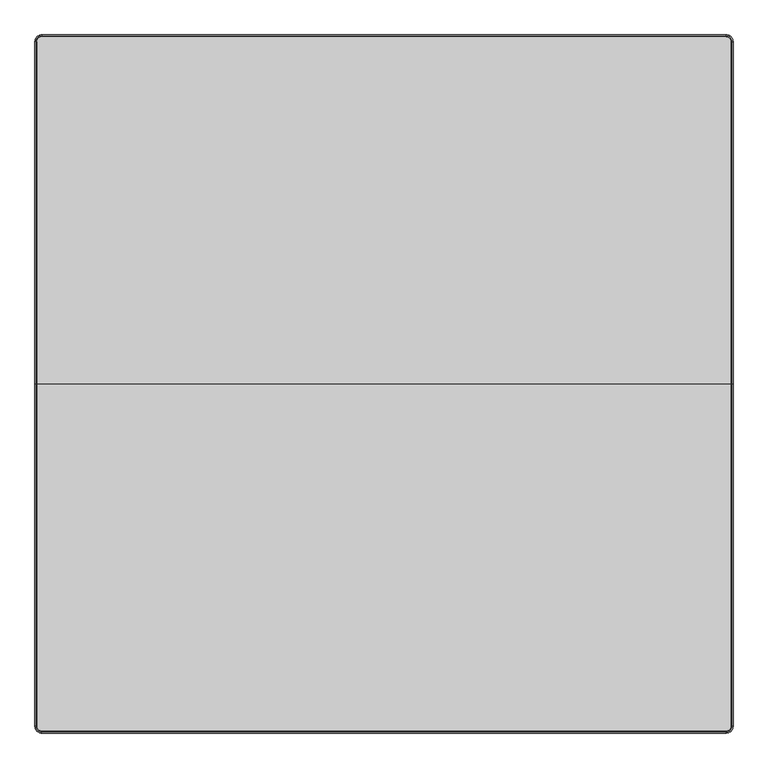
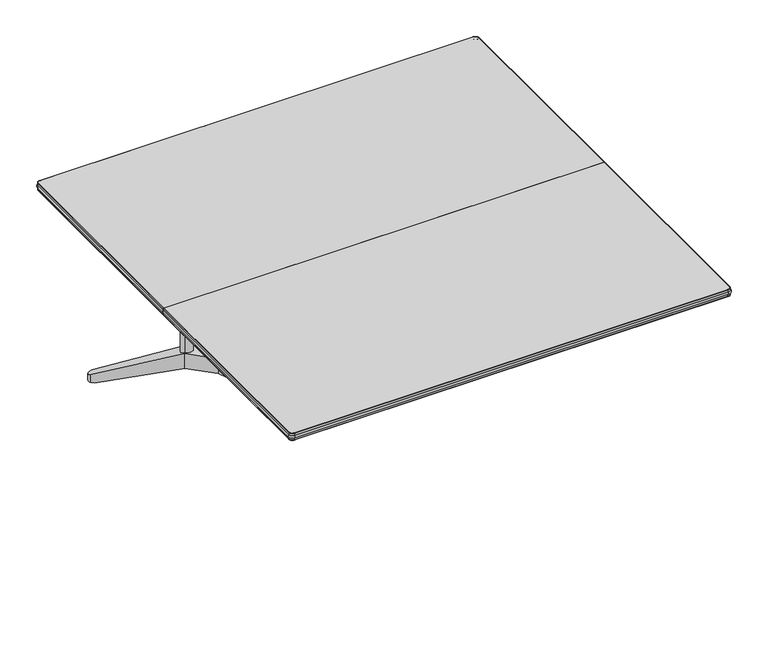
"""IFC4 building model written with IfcOpenShell, lengths in millimetres: furniture geometry, Furniture_Wilkhahn_620-24_Logon Table-Rectangle : Logon 620/23_1550L x 1550W x 730H."""

from ifc_helpers import new_model, si_unit, point, frame, frame_2d, origin, place, context, project, spatial, circle_curve, ellipse_curve, trimmed, segment, composite_curve, outline, extrude, source, transform, mapped, element, save
from ifc_brep_helpers import plane_surface, cylinder_surface, revolved_surface, advanced_brep


def furniture_4840db4a(model_context):
    return source(origin(), model_context, "Body", "SolidModel", [
        advanced_brep(
        [(-455.3877349, 445.9835503, 140.0), (-380.4344161, 371.0302315, 140.0), (-380.4344161, 371.0302315, 195.0), (-455.3877349, 445.9835503, 195.0), (-420.0323958, 481.3388893, 195.0), (-345.079077, 406.3855705, 195.0), (-345.079077, 406.3855705, 140.0), (-420.0323958, 481.3388893, 140.0), (-629.7289296, 674.7621269, 27.0), (-648.8109725, 655.6800841, 27.0), (-657.2764666, 664.8578064, 27.0), (-656.9131675, 682.864322, 27.0), (-638.906652, 683.227621, 27.0), (-638.906652, 683.227621, 56.4159205), (-656.9131675, 682.864322, 50.6048844), (-657.2764666, 664.8578064, 56.4159205), (-143.1903453, 187.5113144, 56.4159205), (-143.1903453, 187.5113144, 27.0), (-151.6558394, 196.6890367, 27.0), (-161.5601599, 169.1414998, 27.0), (-161.5601599, 169.1414998, 56.4159205), (-170.7378823, 177.6069939, 27.0), (-143.5536444, 169.5047988, 27.0), (-143.5536444, 169.5047988, 50.6048844)],
        [
            (0, 1),
            (1, 2),
            (2, 3),
            (3, 0),
            (4, 5),
            (5, 6),
            (6, 7),
            (7, 4),
            (8, 9),
            (9, 10),
            (10, 11, circle_curve(frame((-647.7207794, 673.6719338, 27.0), z_axis=(0.0, 0.0, -1.0), x_axis=(0.70710678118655, 0.7071067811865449, 0.0)), 13.0)),
            (11, 12, circle_curve(frame((-647.7207794, 673.6719338, 27.0), z_axis=(0.0, 0.0, -1.0), x_axis=(0.70710678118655, 0.7071067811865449, 0.0)), 13.0)),
            (12, 8),
            (3, 4),
            (4, 13),
            (13, 14, ellipse_curve(frame((-647.7207794, 673.6719338, 56.6601634), z_axis=(-0.2985640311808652, 0.29856403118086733, 0.9064871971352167), x_axis=(-0.6409832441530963, 0.6409832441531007, -0.42223330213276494)), 14.341074, 13.0)),
            (14, 15, ellipse_curve(frame((-647.7207794, 673.6719338, 56.6601634), z_axis=(-0.2985640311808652, 0.29856403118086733, 0.9064871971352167), x_axis=(-0.6409832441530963, 0.6409832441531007, -0.42223330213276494)), 14.341074, 13.0)),
            (15, 3),
            (7, 0),
            (0, 9),
            (8, 7),
            (16, 17),
            (17, 18),
            (18, 6),
            (5, 16),
            (19, 20),
            (20, 2),
            (1, 21),
            (21, 19),
            (2, 5),
            (6, 1),
            (19, 22, circle_curve(frame((-152.7460326, 178.697187, 27.0), z_axis=(0.0, 0.0, 1.0), x_axis=(0.70710678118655, 0.7071067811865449, 0.0)), 13.0)),
            (22, 17, circle_curve(frame((-152.7460326, 178.697187, 27.0), z_axis=(0.0, 0.0, 1.0), x_axis=(0.70710678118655, 0.7071067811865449, 0.0)), 13.0)),
            (16, 23, ellipse_curve(frame((-152.7460326, 178.697187, 56.6601634), z_axis=(-0.2985640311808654, 0.29856403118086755, -0.9064871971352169), x_axis=(0.6409832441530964, -0.6409832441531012, -0.4222333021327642)), 14.341074, 13.0)),
            (23, 20, ellipse_curve(frame((-152.7460326, 178.697187, 56.6601634), z_axis=(-0.2985640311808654, 0.29856403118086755, -0.9064871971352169), x_axis=(0.6409832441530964, -0.6409832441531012, -0.4222333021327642)), 14.341074, 13.0)),
            (15, 10),
            (13, 12),
            (21, 18),
        ],
        [
            plane_surface(frame((-662.7492452, 653.3450606, 27.0), z_axis=(-0.7071067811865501, -0.707106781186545, 0.0), x_axis=(0.707106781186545, -0.7071067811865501, 0.0))),
            plane_surface(frame((-627.3939061, 688.7003996, 27.0), z_axis=(0.7071067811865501, 0.707106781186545, 0.0), x_axis=(-0.707106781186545, 0.7071067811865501, 0.0))),
            plane_surface(frame((-621.5922815, 682.898775, 27.0), z_axis=(0.0, 0.0, -1.0), x_axis=(-0.7071067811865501, -0.707106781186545, 0.0))),
            plane_surface(frame((-639.235498, 700.5419915, 50.6048844), z_axis=(-0.2985640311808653, 0.2985640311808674, 0.906487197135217), x_axis=(-0.7071067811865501, -0.707106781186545, 0.0))),
            plane_surface(frame((-420.0323958, 481.3388893, 140.0), z_axis=(0.2605848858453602, -0.2605848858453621, -0.9296187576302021), x_axis=(-0.7071067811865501, -0.707106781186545, 0.0))),
            plane_surface(frame((-345.079077, 406.3855705, 195.0), z_axis=(0.7350528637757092, 0.6780097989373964, 0.0), x_axis=(0.0, 0.0, -1.0))),
            plane_surface(frame((-161.5601599, 169.1414998, 195.0), z_axis=(-0.6780097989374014, -0.7350528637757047, 0.0), x_axis=(0.0, 0.0, -1.0))),
            plane_surface(frame((-420.0323958, 481.3388893, 195.0), z_axis=(0.0, 0.0, 1.0), x_axis=(-0.7071067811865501, -0.707106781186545, 0.0))),
            plane_surface(frame((-345.079077, 406.3855705, 140.0), z_axis=(0.0, 0.0, -1.0), x_axis=(-0.7071067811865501, -0.707106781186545, 0.0))),
            cylinder_surface(frame((-152.7460326, 178.697187, 0.0), z_axis=(0.0, 0.0, -1.0), x_axis=(0.70710678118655, 0.7071067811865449, 0.0)), 13.0),
            plane_surface(frame((-455.3877349, 445.9835503, 195.0), z_axis=(-0.7350528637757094, -0.6780097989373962, 0.0), x_axis=(0.0, 0.0, -1.0))),
            cylinder_surface(frame((-647.7207794, 673.6719338, -14.190167), z_axis=(0.0, 0.0, -1.0), x_axis=(0.70710678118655, 0.7071067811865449, 0.0)), 13.0),
            plane_surface(frame((-638.906652, 683.227621, 195.0), z_axis=(0.6780097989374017, 0.7350528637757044, 0.0), x_axis=(0.0, 0.0, -1.0))),
            plane_surface(frame((-345.079077, 406.3855705, 195.0), z_axis=(0.29856403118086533, -0.2985640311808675, 0.9064871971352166), x_axis=(-0.7071067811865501, -0.707106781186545, 0.0))),
            plane_surface(frame((-125.8759749, 187.1824684, 27.0), z_axis=(0.0, 0.0, -1.0), x_axis=(-0.7071067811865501, -0.707106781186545, 0.0))),
            plane_surface(frame((-143.5191913, 204.8256848, 27.0), z_axis=(-0.26058488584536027, 0.26058488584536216, -0.9296187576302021), x_axis=(-0.7071067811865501, -0.707106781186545, 0.0))),
        ],
        [
            (0, [[1, 2, 3, 4]]),
            (1, [[5, 6, 7, 8]]),
            (2, [[9, 10, 11, 12, 13]]),
            (3, [[14, 15, 16, 17, 18]]),
            (4, [[19, 20, -9, 21]]),
            (5, [[22, 23, 24, -6, 25]]),
            (6, [[26, 27, -2, 28, 29]]),
            (7, [[-3, 30, -5, -14]]),
            (8, [[-1, -19, -7, 31]]),
            (9, [[-26, 32, 33, -22, 34, 35]]),
            (10, [[36, -10, -20, -4, -18]]),
            (11, [[-36, -17, -16, 37, -12, -11]]),
            (12, [[-37, -15, -8, -21, -13]]),
            (13, [[-30, -27, -35, -34, -25]]),
            (14, [[38, -23, -33, -32, -29]]),
            (15, [[-31, -24, -38, -28]]),
        ],
    ),
        extrude(outline(composite_curve([segment(trimmed(circle_curve(frame_2d((-362.7567466, 388.707901)), 20.0), [point((-376.8988822, 374.5657654))], [point((-348.6146109, 402.8500366))], False, "CARTESIAN"), True, "CONTINUOUS"), segment(trimmed(circle_curve(frame_2d((-362.7567466, 388.707901)), 20.0), [point((-348.6146109, 402.8500366))], [point((-376.8988822, 374.5657654))], False, "CARTESIAN"), True, "CONTINUOUS")], self_intersect=False)), frame((0.0, 0.0, 140.0), z_axis=(0.0, 0.0, 1.0), x_axis=(1.0, 0.0, 0.0)), (0.0, 0.0, 1.0), 535.0),
        extrude(outline(composite_curve([segment(trimmed(circle_curve(frame_2d((-437.7100654, 463.6612198)), 20.0), [point((-451.852201, 449.5190842))], [point((-423.5679298, 477.8033554))], False, "CARTESIAN"), True, "CONTINUOUS"), segment(trimmed(circle_curve(frame_2d((-437.7100654, 463.6612198)), 20.0), [point((-423.5679298, 477.8033554))], [point((-451.852201, 449.5190842))], False, "CARTESIAN"), True, "CONTINUOUS")], self_intersect=False)), frame((0.0, 0.0, 140.0), z_axis=(0.0, 0.0, 1.0), x_axis=(1.0, 0.0, 0.0)), (0.0, 0.0, 1.0), 535.0),
        advanced_brep(
        [(-771.0, 25.9511544, 730.0), (-772.5, 25.9511544, 728.5), (-772.5, 25.9511544, 721.3301166), (-772.5, 25.9511544, 712.6698626), (-772.5, 25.9511544, 705.4999792), (-771.0, 25.9511544, 703.9999792), (771.0, 25.9511544, 703.9999792), (772.5, 25.9511544, 705.4999792), (772.5, 25.9511544, 712.6698626), (772.5, 25.9511544, 721.3301166), (772.5, 25.9511544, 728.5), (771.0, 25.9511544, 730.0), (771.0, 785.9511544, 703.9999792), (760.0, 796.9511544, 703.9999792), (760.0, 798.4511544, 705.4999792), (772.5, 785.9511544, 705.4999792), (760.0, 798.4511544, 712.6698626), (772.5, 785.9511544, 712.6698626), (760.0, 798.4511544, 721.3301166), (772.5, 785.9511544, 721.3301166), (760.0, 798.4511544, 728.5), (772.5, 785.9511544, 728.5), (760.0, 796.9511544, 730.0), (771.0, 785.9511544, 730.0), (-771.0, 785.9511544, 703.9999792), (-760.0, 796.9511544, 703.9999792), (-772.5, 785.9511544, 705.4999792), (-772.5, 785.9511544, 712.6698626), (-772.5, 785.9511544, 721.3301166), (-772.5, 785.9511544, 728.5), (-771.0, 785.9511544, 730.0), (-760.0, 796.9511544, 730.0), (-760.0, 798.4511544, 705.4999792), (-760.0, 798.4511544, 712.6698626), (-760.0, 798.4511544, 721.3301166), (-760.0, 798.4511544, 728.5)],
        [
            (0, 1, circle_curve(frame((-771.0, 25.9511544, 728.5), z_axis=(0.0, -1.0, 0.0), x_axis=(-1.0000000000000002, 0.0, 0.0)), 1.5)),
            (1, 2),
            (2, 3, circle_curve(frame((-770.0, 25.9511544, 716.9999896), z_axis=(0.0, -1.0, 0.0), x_axis=(-1.0000000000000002, 0.0, 0.0)), 5.0)),
            (3, 4),
            (4, 5, circle_curve(frame((-771.0, 25.9511544, 705.4999792), z_axis=(0.0, -1.0, 0.0), x_axis=(-1.0000000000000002, 0.0, 0.0)), 1.5)),
            (5, 6),
            (6, 7, circle_curve(frame((771.0, 25.9511544, 705.4999792), z_axis=(0.0, -1.0, 0.0), x_axis=(1.0000000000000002, 0.0, 0.0)), 1.5)),
            (7, 8),
            (8, 9, circle_curve(frame((770.0, 25.9511544, 716.9999896), z_axis=(0.0, -1.0, 0.0), x_axis=(1.0000000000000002, 0.0, 0.0)), 5.0)),
            (9, 10),
            (10, 11, circle_curve(frame((771.0, 25.9511544, 728.5), z_axis=(0.0, -1.0, 0.0), x_axis=(1.0000000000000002, 0.0, 0.0)), 1.5)),
            (11, 0),
            (12, 13, circle_curve(frame((760.0, 785.9511544, 703.9999792), z_axis=(0.0, 0.0, 1.0), x_axis=(0.0, 1.0000000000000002, 0.0)), 11.0)),
            (13, 14, circle_curve(frame((760.0, 796.9511544, 705.4999792), z_axis=(1.0000000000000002, 0.0, 0.0), x_axis=(0.0, 1.0000000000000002, 0.0)), 1.5)),
            (14, 15, circle_curve(frame((760.0, 785.9511544, 705.4999792), z_axis=(0.0, 0.0, -1.0), x_axis=(0.0, 1.0000000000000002, 0.0)), 12.5)),
            (15, 12, circle_curve(frame((771.0, 785.9511544, 705.4999792), z_axis=(0.0, 1.0000000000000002, 0.0), x_axis=(1.0000000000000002, 0.0, 0.0)), 1.5)),
            (14, 16),
            (16, 17, circle_curve(frame((760.0, 785.9511544, 712.6698626), z_axis=(0.0, 0.0, -1.0), x_axis=(0.0, 1.0000000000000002, 0.0)), 12.5)),
            (17, 15),
            (16, 18, circle_curve(frame((760.0, 795.9511544, 716.9999896), z_axis=(1.0000000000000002, 0.0, 0.0), x_axis=(0.0, 1.0000000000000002, 0.0)), 5.0)),
            (18, 19, circle_curve(frame((760.0, 785.9511544, 721.3301166), z_axis=(0.0, 0.0, -1.0), x_axis=(0.0, 1.0000000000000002, 0.0)), 12.5)),
            (19, 17, circle_curve(frame((770.0, 785.9511544, 716.9999896), z_axis=(0.0, 1.0000000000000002, 0.0), x_axis=(1.0000000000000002, 0.0, 0.0)), 5.0)),
            (18, 20),
            (20, 21, circle_curve(frame((760.0, 785.9511544, 728.5), z_axis=(0.0, 0.0, -1.0), x_axis=(0.0, 1.0000000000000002, 0.0)), 12.5)),
            (21, 19),
            (20, 22, circle_curve(frame((760.0, 796.9511544, 728.5), z_axis=(1.0000000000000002, 0.0, 0.0), x_axis=(0.0, 1.0000000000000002, 0.0)), 1.5)),
            (22, 23, circle_curve(frame((760.0, 785.9511544, 730.0), z_axis=(0.0, 0.0, -1.0), x_axis=(0.0, 1.0000000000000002, 0.0)), 11.0)),
            (23, 21, circle_curve(frame((771.0, 785.9511544, 728.5), z_axis=(0.0, 1.0000000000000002, 0.0), x_axis=(1.0000000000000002, 0.0, 0.0)), 1.5)),
            (6, 12),
            (15, 7),
            (17, 8),
            (19, 9),
            (21, 10),
            (23, 11),
            (5, 24),
            (24, 25, circle_curve(frame((-760.0, 785.9511544, 703.9999792), z_axis=(0.0, 0.0, -1.0), x_axis=(-1.0000000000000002, 0.0, 0.0)), 11.0)),
            (25, 13),
            (4, 26),
            (26, 24, circle_curve(frame((-771.0, 785.9511544, 705.4999792), z_axis=(0.0, -1.0, 0.0), x_axis=(-1.0000000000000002, 0.0, 0.0)), 1.5)),
            (3, 27),
            (27, 26),
            (2, 28),
            (28, 27, circle_curve(frame((-770.0, 785.9511544, 716.9999896), z_axis=(0.0, -1.0, 0.0), x_axis=(-1.0000000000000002, 0.0, 0.0)), 5.0)),
            (1, 29),
            (29, 28),
            (0, 30),
            (30, 29, circle_curve(frame((-771.0, 785.9511544, 728.5), z_axis=(0.0, -1.0, 0.0), x_axis=(-1.0000000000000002, 0.0, 0.0)), 1.5)),
            (22, 31),
            (31, 30, circle_curve(frame((-760.0, 785.9511544, 730.0), z_axis=(0.0, 0.0, 1.0), x_axis=(-1.0000000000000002, 0.0, 0.0)), 11.0)),
            (26, 32, circle_curve(frame((-760.0, 785.9511544, 705.4999792), z_axis=(0.0, 0.0, -1.0), x_axis=(-1.0000000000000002, 0.0, 0.0)), 12.5)),
            (32, 25, circle_curve(frame((-760.0, 796.9511544, 705.4999792), z_axis=(-1.0000000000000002, 0.0, 0.0), x_axis=(0.0, 1.0000000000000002, 0.0)), 1.5)),
            (27, 33, circle_curve(frame((-760.0, 785.9511544, 712.6698626), z_axis=(0.0, 0.0, -1.0), x_axis=(-1.0000000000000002, 0.0, 0.0)), 12.5)),
            (33, 32),
            (28, 34, circle_curve(frame((-760.0, 785.9511544, 721.3301166), z_axis=(0.0, 0.0, -1.0), x_axis=(-1.0000000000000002, 0.0, 0.0)), 12.5)),
            (34, 33, circle_curve(frame((-760.0, 795.9511544, 716.9999896), z_axis=(-1.0000000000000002, 0.0, 0.0), x_axis=(0.0, 1.0000000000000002, 0.0)), 5.0)),
            (29, 35, circle_curve(frame((-760.0, 785.9511544, 728.5), z_axis=(0.0, 0.0, -1.0), x_axis=(-1.0000000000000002, 0.0, 0.0)), 12.5)),
            (35, 34),
            (31, 35, circle_curve(frame((-760.0, 796.9511544, 728.5), z_axis=(-1.0000000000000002, 0.0, 0.0), x_axis=(0.0, 1.0000000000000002, 0.0)), 1.5)),
            (32, 14),
            (33, 16),
            (34, 18),
            (35, 20),
        ],
        [
            plane_surface(frame((-775.0, 25.9511544, 730.0), z_axis=(0.0, -1.0, 0.0), x_axis=(0.0, 0.0, 1.0))),
            revolved_surface(trimmed(ellipse_curve(frame((760.0, 796.9511544, 705.4999792), z_axis=(-1.0000000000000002, 0.0, 0.0), x_axis=(0.0, 1.0000000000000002, 0.0)), 1.5, 1.5), [point((760.0, 798.4511544, 705.4999792))], [point((760.0, 796.9511544, 703.9999792))], True, "CARTESIAN"), (760.0, 785.9511544, 730.0), (0.0, 0.0, -1.0)),
            cylinder_surface(frame((760.0, 785.9511544, 730.0), z_axis=(0.0, 0.0, -1.0), x_axis=(0.0, 1.0000000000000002, 0.0)), 12.5),
            revolved_surface(trimmed(ellipse_curve(frame((760.0, 795.9511544, 716.9999896), z_axis=(-1.0000000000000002, 0.0, 0.0), x_axis=(0.0, 1.0000000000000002, 0.0)), 5.0, 5.0), [point((760.0, 798.4511544, 721.3301166))], [point((760.0, 798.4511544, 712.6698626))], True, "CARTESIAN"), (760.0, 785.9511544, 730.0), (0.0, 0.0, -1.0)),
            revolved_surface(trimmed(ellipse_curve(frame((760.0, 796.9511544, 728.5), z_axis=(-1.0000000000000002, 0.0, 0.0), x_axis=(0.0, 1.0000000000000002, 0.0)), 1.5, 1.5), [point((760.0, 796.9511544, 730.0))], [point((760.0, 798.4511544, 728.5))], True, "CARTESIAN"), (760.0, 785.9511544, 730.0), (0.0, 0.0, -1.0)),
            cylinder_surface(frame((771.0, 785.9511544, 705.4999792), z_axis=(0.0, 1.0000000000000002, 0.0), x_axis=(1.0000000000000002, 0.0, 0.0)), 1.5),
            plane_surface(frame((772.5, 785.9511544, 712.6698626), z_axis=(1.0, 0.0, 0.0), x_axis=(0.0, -1.0, 0.0))),
            cylinder_surface(frame((770.0, 785.9511544, 716.9999896), z_axis=(0.0, 1.0000000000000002, 0.0), x_axis=(1.0000000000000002, 0.0, 0.0)), 5.0),
            plane_surface(frame((772.5, 785.9511544, 728.5), z_axis=(1.0, 0.0, 0.0), x_axis=(0.0, -1.0, 0.0))),
            cylinder_surface(frame((771.0, 785.9511544, 728.5), z_axis=(0.0, 1.0000000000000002, 0.0), x_axis=(1.0000000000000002, 0.0, 0.0)), 1.5),
            plane_surface(frame((-771.0, 25.9511544, 703.9999792), z_axis=(0.0, 0.0, -1.0), x_axis=(0.0, 1.0, 0.0))),
            cylinder_surface(frame((-771.0, 25.9511544, 705.4999792), z_axis=(0.0, -1.0000000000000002, 0.0), x_axis=(-1.0000000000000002, 0.0, 0.0)), 1.5),
            plane_surface(frame((-772.5, 25.9511544, 712.6698626), z_axis=(-1.0, 0.0, 0.0), x_axis=(0.0, 1.0, 0.0))),
            cylinder_surface(frame((-770.0, 25.9511544, 716.9999896), z_axis=(0.0, -1.0000000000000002, 0.0), x_axis=(-1.0000000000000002, 0.0, 0.0)), 5.0),
            plane_surface(frame((-772.5, 25.9511544, 728.5), z_axis=(-1.0, 0.0, 0.0), x_axis=(0.0, 1.0, 0.0))),
            cylinder_surface(frame((-771.0, 25.9511544, 728.5), z_axis=(0.0, -1.0000000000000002, 0.0), x_axis=(-1.0000000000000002, 0.0, 0.0)), 1.5),
            plane_surface(frame((-770.0, 25.9511544, 730.0), z_axis=(0.0, 0.0, 1.0), x_axis=(0.0, 1.0, 0.0))),
            revolved_surface(trimmed(ellipse_curve(frame((-771.0, 785.9511544, 705.4999792), z_axis=(0.0, -1.0000000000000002, 0.0), x_axis=(-1.0000000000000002, 0.0, 0.0)), 1.5, 1.5), [point((-772.5, 785.9511544, 705.4999792))], [point((-771.0, 785.9511544, 703.9999792))], True, "CARTESIAN"), (-760.0, 785.9511544, 730.0), (0.0, 0.0, -1.0)),
            cylinder_surface(frame((-760.0, 785.9511544, 730.0), z_axis=(0.0, 0.0, -1.0), x_axis=(-1.0000000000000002, 0.0, 0.0)), 12.5),
            revolved_surface(trimmed(ellipse_curve(frame((-770.0, 785.9511544, 716.9999896), z_axis=(0.0, -1.0000000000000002, 0.0), x_axis=(-1.0000000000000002, 0.0, 0.0)), 5.0, 5.0), [point((-772.5, 785.9511544, 721.3301166))], [point((-772.5, 785.9511544, 712.6698626))], True, "CARTESIAN"), (-760.0, 785.9511544, 730.0), (0.0, 0.0, -1.0)),
            revolved_surface(trimmed(ellipse_curve(frame((-771.0, 785.9511544, 728.5), z_axis=(0.0, -1.0000000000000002, 0.0), x_axis=(-1.0000000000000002, 0.0, 0.0)), 1.5, 1.5), [point((-771.0, 785.9511544, 730.0))], [point((-772.5, 785.9511544, 728.5))], True, "CARTESIAN"), (-760.0, 785.9511544, 730.0), (0.0, 0.0, -1.0)),
            cylinder_surface(frame((-760.0, 796.9511544, 705.4999792), z_axis=(-1.0000000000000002, 0.0, 0.0), x_axis=(0.0, 1.0000000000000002, 0.0)), 1.5),
            plane_surface(frame((-760.0, 798.4511544, 712.6698626), z_axis=(0.0, 1.0, 0.0), x_axis=(1.0, 0.0, 0.0))),
            cylinder_surface(frame((-760.0, 795.9511544, 716.9999896), z_axis=(-1.0000000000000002, 0.0, 0.0), x_axis=(0.0, 1.0000000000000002, 0.0)), 5.0),
            plane_surface(frame((-760.0, 798.4511544, 728.5), z_axis=(0.0, 1.0, 0.0), x_axis=(1.0, 0.0, 0.0))),
            cylinder_surface(frame((-760.0, 796.9511544, 728.5), z_axis=(-1.0000000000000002, 0.0, 0.0), x_axis=(0.0, 1.0000000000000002, 0.0)), 1.5),
        ],
        [
            (0, [[1, 2, 3, 4, 5, 6, 7, 8, 9, 10, 11, 12]]),
            (1, [[13, 14, 15, 16]]),
            (2, [[-15, 17, 18, 19]]),
            (3, [[-18, 20, 21, 22]]),
            (2, [[-21, 23, 24, 25]]),
            (4, [[-24, 26, 27, 28]]),
            (5, [[-7, 29, -16, 30]]),
            (6, [[-8, -30, -19, 31]]),
            (7, [[-9, -31, -22, 32]]),
            (8, [[-10, -32, -25, 33]]),
            (9, [[-11, -33, -28, 34]]),
            (10, [[-6, 35, 36, 37, -13, -29]]),
            (11, [[-5, 38, 39, -35]]),
            (12, [[-4, 40, 41, -38]]),
            (13, [[-3, 42, 43, -40]]),
            (14, [[-2, 44, 45, -42]]),
            (15, [[-1, 46, 47, -44]]),
            (16, [[-12, -34, -27, 48, 49, -46]]),
            (17, [[-36, -39, 50, 51]]),
            (18, [[-41, 52, 53, -50]]),
            (19, [[-43, 54, 55, -52]]),
            (18, [[-45, 56, 57, -54]]),
            (20, [[-47, -49, 58, -56]]),
            (21, [[-14, -37, -51, 59]]),
            (22, [[-17, -59, -53, 60]]),
            (23, [[-20, -60, -55, 61]]),
            (24, [[-23, -61, -57, 62]]),
            (25, [[-26, -62, -58, -48]]),
        ],
    ),
        advanced_brep(
        [(772.5, -734.0488456, 705.4999792), (760.0, -746.5488456, 705.4999792), (760.0, -745.0488456, 703.9999792), (771.0, -734.0488456, 703.9999792), (772.5, -734.0488456, 712.6698626), (760.0, -746.5488456, 712.6698626), (772.5, -734.0488456, 721.3301166), (760.0, -746.5488456, 721.3301166), (772.5, -734.0488456, 728.5), (760.0, -746.5488456, 728.5), (771.0, -734.0488456, 730.0), (760.0, -745.0488456, 730.0), (771.0, 25.9511544, 703.9999792), (772.5, 25.9511544, 705.4999792), (772.5, 25.9511544, 712.6698626), (772.5, 25.9511544, 721.3301166), (772.5, 25.9511544, 728.5), (771.0, 25.9511544, 730.0), (-772.5, 25.9511544, 705.4999792), (-771.0, 25.9511544, 703.9999792), (-771.0, -734.0488456, 703.9999792), (-772.5, -734.0488456, 705.4999792), (-772.5, 25.9511544, 712.6698626), (-772.5, -734.0488456, 712.6698626), (-772.5, 25.9511544, 721.3301166), (-772.5, -734.0488456, 721.3301166), (-772.5, 25.9511544, 728.5), (-772.5, -734.0488456, 728.5), (-771.0, 25.9511544, 730.0), (-771.0, -734.0488456, 730.0), (-760.0, -745.0488456, 703.9999792), (-760.0, -746.5488456, 705.4999792), (-760.0, -746.5488456, 712.6698626), (-760.0, -746.5488456, 721.3301166), (-760.0, -746.5488456, 728.5), (-760.0, -745.0488456, 730.0)],
        [
            (0, 1, circle_curve(frame((760.0, -734.0488456, 705.4999792), z_axis=(0.0, 0.0, -1.0), x_axis=(0.0, -1.0000000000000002, 0.0)), 12.5)),
            (1, 2, circle_curve(frame((760.0, -745.0488456, 705.4999792), z_axis=(1.0000000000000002, 0.0, 0.0), x_axis=(0.0, 1.0000000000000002, 0.0)), 1.5)),
            (2, 3, circle_curve(frame((760.0, -734.0488456, 703.9999792), z_axis=(0.0, 0.0, 1.0), x_axis=(0.0, -1.0000000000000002, 0.0)), 11.0)),
            (3, 0, circle_curve(frame((771.0, -734.0488456, 705.4999792), z_axis=(0.0, -1.0000000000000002, 0.0), x_axis=(-1.0000000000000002, 0.0, 0.0)), 1.5)),
            (0, 4),
            (4, 5, circle_curve(frame((760.0, -734.0488456, 712.6698626), z_axis=(0.0, 0.0, -1.0), x_axis=(0.0, -1.0000000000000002, 0.0)), 12.5)),
            (5, 1),
            (4, 6, circle_curve(frame((770.0, -734.0488456, 716.9999896), z_axis=(0.0, -1.0000000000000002, 0.0), x_axis=(-1.0000000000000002, 0.0, 0.0)), 5.0)),
            (6, 7, circle_curve(frame((760.0, -734.0488456, 721.3301166), z_axis=(0.0, 0.0, -1.0), x_axis=(0.0, -1.0000000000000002, 0.0)), 12.5)),
            (7, 5, circle_curve(frame((760.0, -744.0488456, 716.9999896), z_axis=(1.0000000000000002, 0.0, 0.0), x_axis=(0.0, 1.0000000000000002, 0.0)), 5.0)),
            (6, 8),
            (8, 9, circle_curve(frame((760.0, -734.0488456, 728.5), z_axis=(0.0, 0.0, -1.0), x_axis=(0.0, -1.0000000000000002, 0.0)), 12.5)),
            (9, 7),
            (8, 10, circle_curve(frame((771.0, -734.0488456, 728.5), z_axis=(0.0, -1.0000000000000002, 0.0), x_axis=(-1.0000000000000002, 0.0, 0.0)), 1.5)),
            (10, 11, circle_curve(frame((760.0, -734.0488456, 730.0), z_axis=(0.0, 0.0, -1.0), x_axis=(0.0, -1.0000000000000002, 0.0)), 11.0)),
            (11, 9, circle_curve(frame((760.0, -745.0488456, 728.5), z_axis=(1.0000000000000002, 0.0, 0.0), x_axis=(0.0, 1.0000000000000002, 0.0)), 1.5)),
            (12, 13, circle_curve(frame((771.0, 25.9511544, 705.4999792), z_axis=(0.0, -1.0, 0.0), x_axis=(-1.0000000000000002, 0.0, 0.0)), 1.5)),
            (13, 0),
            (3, 12),
            (13, 14),
            (14, 4),
            (14, 15, circle_curve(frame((770.0, 25.9511544, 716.9999896), z_axis=(0.0, -1.0, 0.0), x_axis=(-1.0000000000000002, 0.0, 0.0)), 5.0)),
            (15, 6),
            (15, 16),
            (16, 8),
            (16, 17, circle_curve(frame((771.0, 25.9511544, 728.5), z_axis=(0.0, -1.0, 0.0), x_axis=(-1.0000000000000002, 0.0, 0.0)), 1.5)),
            (17, 10),
            (18, 19, circle_curve(frame((-771.0, 25.9511544, 705.4999792), z_axis=(0.0, -1.0, 0.0), x_axis=(1.0000000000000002, 0.0, 0.0)), 1.5)),
            (19, 20),
            (20, 21, circle_curve(frame((-771.0, -734.0488456, 705.4999792), z_axis=(0.0, 1.0, 0.0), x_axis=(1.0000000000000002, 0.0, 0.0)), 1.5)),
            (21, 18),
            (22, 18),
            (21, 23),
            (23, 22),
            (24, 22, circle_curve(frame((-770.0, 25.9511544, 716.9999896), z_axis=(0.0, -1.0, 0.0), x_axis=(1.0000000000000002, 0.0, 0.0)), 5.0)),
            (23, 25, circle_curve(frame((-770.0, -734.0488456, 716.9999896), z_axis=(0.0, 1.0, 0.0), x_axis=(1.0000000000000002, 0.0, 0.0)), 5.0)),
            (25, 24),
            (26, 24),
            (25, 27),
            (27, 26),
            (28, 26, circle_curve(frame((-771.0, 25.9511544, 728.5), z_axis=(0.0, -1.0, 0.0), x_axis=(1.0000000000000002, 0.0, 0.0)), 1.5)),
            (27, 29, circle_curve(frame((-771.0, -734.0488456, 728.5), z_axis=(0.0, 1.0, 0.0), x_axis=(1.0000000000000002, 0.0, 0.0)), 1.5)),
            (29, 28),
            (20, 30, circle_curve(frame((-760.0, -734.0488456, 703.9999792), z_axis=(0.0, 0.0, 1.0), x_axis=(-1.0000000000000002, 0.0, 0.0)), 11.0)),
            (30, 31, circle_curve(frame((-760.0, -745.0488456, 705.4999792), z_axis=(-1.0000000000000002, 0.0, 0.0), x_axis=(0.0, 1.0000000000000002, 0.0)), 1.5)),
            (31, 21, circle_curve(frame((-760.0, -734.0488456, 705.4999792), z_axis=(0.0, 0.0, -1.0), x_axis=(-1.0000000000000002, 0.0, 0.0)), 12.5)),
            (31, 32),
            (32, 23, circle_curve(frame((-760.0, -734.0488456, 712.6698626), z_axis=(0.0, 0.0, -1.0), x_axis=(-1.0000000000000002, 0.0, 0.0)), 12.5)),
            (32, 33, circle_curve(frame((-760.0, -744.0488456, 716.9999896), z_axis=(-1.0000000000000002, 0.0, 0.0), x_axis=(0.0, 1.0000000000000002, 0.0)), 5.0)),
            (33, 25, circle_curve(frame((-760.0, -734.0488456, 721.3301166), z_axis=(0.0, 0.0, -1.0), x_axis=(-1.0000000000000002, 0.0, 0.0)), 12.5)),
            (33, 34),
            (34, 27, circle_curve(frame((-760.0, -734.0488456, 728.5), z_axis=(0.0, 0.0, -1.0), x_axis=(-1.0000000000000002, 0.0, 0.0)), 12.5)),
            (34, 35, circle_curve(frame((-760.0, -745.0488456, 728.5), z_axis=(-1.0000000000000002, 0.0, 0.0), x_axis=(0.0, 1.0000000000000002, 0.0)), 1.5)),
            (35, 29, circle_curve(frame((-760.0, -734.0488456, 730.0), z_axis=(0.0, 0.0, -1.0), x_axis=(-1.0000000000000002, 0.0, 0.0)), 11.0)),
            (1, 31),
            (30, 2),
            (5, 32),
            (7, 33),
            (9, 34),
            (11, 35),
            (28, 17),
            (12, 19),
        ],
        [
            revolved_surface(trimmed(ellipse_curve(frame((760.0, -745.0488456, 705.4999792), z_axis=(-1.0000000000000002, 0.0, 0.0), x_axis=(0.0, 1.0000000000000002, 0.0)), 1.5, 1.5), [point((760.0, -745.0488456, 703.9999792))], [point((760.0, -746.5488456, 705.4999792))], True, "CARTESIAN"), (760.0, -734.0488456, 730.0), (0.0, 0.0, 1.0)),
            cylinder_surface(frame((760.0, -734.0488456, 730.0), z_axis=(0.0, 0.0, 1.0), x_axis=(0.0, -1.0000000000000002, 0.0)), 12.5),
            revolved_surface(trimmed(ellipse_curve(frame((760.0, -744.0488456, 716.9999896), z_axis=(-1.0000000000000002, 0.0, 0.0), x_axis=(0.0, 1.0000000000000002, 0.0)), 5.0, 5.0), [point((760.0, -746.5488456, 712.6698626))], [point((760.0, -746.5488456, 721.3301166))], True, "CARTESIAN"), (760.0, -734.0488456, 730.0), (0.0, 0.0, 1.0)),
            revolved_surface(trimmed(ellipse_curve(frame((760.0, -745.0488456, 728.5), z_axis=(-1.0000000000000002, 0.0, 0.0), x_axis=(0.0, 1.0000000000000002, 0.0)), 1.5, 1.5), [point((760.0, -746.5488456, 728.5))], [point((760.0, -745.0488456, 730.0))], True, "CARTESIAN"), (760.0, -734.0488456, 730.0), (0.0, 0.0, 1.0)),
            cylinder_surface(frame((771.0, -734.0488456, 705.4999792), z_axis=(0.0, -1.0000000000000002, 0.0), x_axis=(-1.0000000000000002, 0.0, 0.0)), 1.5),
            plane_surface(frame((772.5, -734.0488456, 705.4999792), z_axis=(1.0, 0.0, 0.0), x_axis=(0.0, 1.0, 0.0))),
            cylinder_surface(frame((770.0, -734.0488456, 716.9999896), z_axis=(0.0, -1.0000000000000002, 0.0), x_axis=(-1.0000000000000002, 0.0, 0.0)), 5.0),
            plane_surface(frame((772.5, -734.0488456, 721.3301166), z_axis=(1.0, 0.0, 0.0), x_axis=(0.0, 1.0, 0.0))),
            cylinder_surface(frame((771.0, -734.0488456, 728.5), z_axis=(0.0, -1.0000000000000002, 0.0), x_axis=(-1.0000000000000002, 0.0, 0.0)), 1.5),
            cylinder_surface(frame((-771.0, 25.9511544, 705.4999792), z_axis=(0.0, 1.0000000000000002, 0.0), x_axis=(1.0000000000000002, 0.0, 0.0)), 1.5),
            plane_surface(frame((-772.5, 25.9511544, 705.4999792), z_axis=(-1.0, 0.0, 0.0), x_axis=(0.0, -1.0, 0.0))),
            cylinder_surface(frame((-770.0, 25.9511544, 716.9999896), z_axis=(0.0, 1.0000000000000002, 0.0), x_axis=(1.0000000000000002, 0.0, 0.0)), 5.0),
            plane_surface(frame((-772.5, 25.9511544, 721.3301166), z_axis=(-1.0, 0.0, 0.0), x_axis=(0.0, -1.0, 0.0))),
            cylinder_surface(frame((-771.0, 25.9511544, 728.5), z_axis=(0.0, 1.0000000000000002, 0.0), x_axis=(1.0000000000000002, 0.0, 0.0)), 1.5),
            revolved_surface(trimmed(ellipse_curve(frame((-771.0, -734.0488456, 705.4999792), z_axis=(0.0, 1.0000000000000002, 0.0), x_axis=(1.0000000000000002, 0.0, 0.0)), 1.5, 1.5), [point((-771.0, -734.0488456, 703.9999792))], [point((-772.5, -734.0488456, 705.4999792))], True, "CARTESIAN"), (-760.0, -734.0488456, 730.0), (0.0, 0.0, 1.0)),
            cylinder_surface(frame((-760.0, -734.0488456, 730.0), z_axis=(0.0, 0.0, 1.0), x_axis=(-1.0000000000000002, 0.0, 0.0)), 12.5),
            revolved_surface(trimmed(ellipse_curve(frame((-770.0, -734.0488456, 716.9999896), z_axis=(0.0, 1.0000000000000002, 0.0), x_axis=(1.0000000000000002, 0.0, 0.0)), 5.0, 5.0), [point((-772.5, -734.0488456, 712.6698626))], [point((-772.5, -734.0488456, 721.3301166))], True, "CARTESIAN"), (-760.0, -734.0488456, 730.0), (0.0, 0.0, 1.0)),
            revolved_surface(trimmed(ellipse_curve(frame((-771.0, -734.0488456, 728.5), z_axis=(0.0, 1.0000000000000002, 0.0), x_axis=(1.0000000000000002, 0.0, 0.0)), 1.5, 1.5), [point((-772.5, -734.0488456, 728.5))], [point((-771.0, -734.0488456, 730.0))], True, "CARTESIAN"), (-760.0, -734.0488456, 730.0), (0.0, 0.0, 1.0)),
            cylinder_surface(frame((-760.0, -745.0488456, 705.4999792), z_axis=(-1.0000000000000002, 0.0, 0.0), x_axis=(0.0, 1.0000000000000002, 0.0)), 1.5),
            plane_surface(frame((-760.0, -746.5488456, 705.4999792), z_axis=(0.0, -1.0, 0.0), x_axis=(1.0, 0.0, 0.0))),
            cylinder_surface(frame((-760.0, -744.0488456, 716.9999896), z_axis=(-1.0000000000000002, 0.0, 0.0), x_axis=(0.0, 1.0000000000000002, 0.0)), 5.0),
            plane_surface(frame((-760.0, -746.5488456, 721.3301166), z_axis=(0.0, -1.0, 0.0), x_axis=(1.0, 0.0, 0.0))),
            cylinder_surface(frame((-760.0, -745.0488456, 728.5), z_axis=(-1.0000000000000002, 0.0, 0.0), x_axis=(0.0, 1.0000000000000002, 0.0)), 1.5),
            plane_surface(frame((-775.0, 25.9511544, 730.0), z_axis=(0.0, 1.0, 0.0), x_axis=(0.0, 0.0, 1.0))),
            plane_surface(frame((-770.0, 25.9511544, 703.9999792), z_axis=(0.0, 0.0, -1.0), x_axis=(0.0, -1.0, 0.0))),
            plane_surface(frame((-771.0, 25.9511544, 730.0), z_axis=(0.0, 0.0, 1.0), x_axis=(0.0, -1.0, 0.0))),
        ],
        [
            (0, [[1, 2, 3, 4]]),
            (1, [[-1, 5, 6, 7]]),
            (2, [[-6, 8, 9, 10]]),
            (1, [[-9, 11, 12, 13]]),
            (3, [[-12, 14, 15, 16]]),
            (4, [[17, 18, -4, 19]]),
            (5, [[20, 21, -5, -18]]),
            (6, [[22, 23, -8, -21]]),
            (7, [[24, 25, -11, -23]]),
            (8, [[26, 27, -14, -25]]),
            (9, [[28, 29, 30, 31]]),
            (10, [[32, -31, 33, 34]]),
            (11, [[35, -34, 36, 37]]),
            (12, [[38, -37, 39, 40]]),
            (13, [[41, -40, 42, 43]]),
            (14, [[44, 45, 46, -30]]),
            (15, [[-33, -46, 47, 48]]),
            (16, [[-36, -48, 49, 50]]),
            (15, [[-39, -50, 51, 52]]),
            (17, [[-42, -52, 53, 54]]),
            (18, [[-2, 55, -45, 56]]),
            (19, [[-7, 57, -47, -55]]),
            (20, [[-10, 58, -49, -57]]),
            (21, [[-13, 59, -51, -58]]),
            (22, [[-16, 60, -53, -59]]),
            (23, [[-28, -32, -35, -38, -41, 61, -26, -24, -22, -20, -17, 62]]),
            (24, [[-62, -19, -3, -56, -44, -29]]),
            (25, [[-61, -43, -54, -60, -15, -27]]),
        ],
    ),
    ])


if __name__ == "__main__":
    model = new_model("IFC4")
    model_context = context("Model", 3, world=origin())
    ifc_project = project(units=[si_unit("LENGTHUNIT", "METRE", prefix="MILLI")], contexts=[model_context])
    site = spatial("IfcSite", under=ifc_project)
    building = spatial("IfcBuilding", under=site)
    placement = place(None, origin())
    furniture_shape = furniture_4840db4a(model_context)
    element("IfcFurniture", 1, ObjectType="Furniture_Wilkhahn_620-24_Logon Table-Rectangle : Logon 620/23_1550L x 1550W x 730H", at=placement, inside=building, context=model_context, shape_type="MappedRepresentation", body=[
        mapped(furniture_shape, transform((0.0, 0.0, 0.0), x_axis=(1.0, 0.0, 0.0), y_axis=(0.0, 1.0, 0.0), z_axis=(0.0, 0.0, 1.0))),
    ])
    save(model, "model.ifc")
